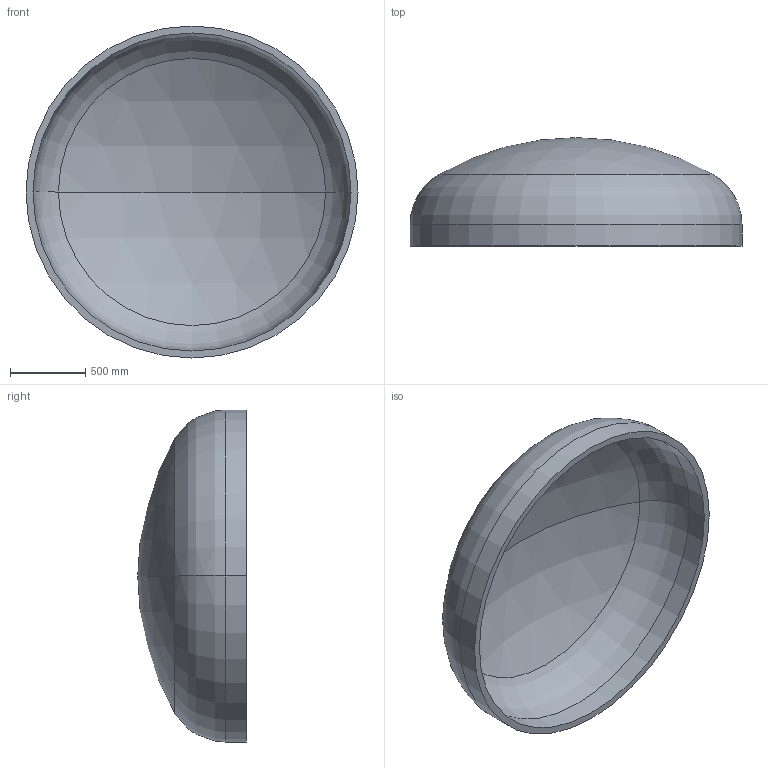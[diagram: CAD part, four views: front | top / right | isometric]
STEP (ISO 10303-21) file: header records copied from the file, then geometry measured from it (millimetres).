
FILE_DESCRIPTION (( 'STEP AP203' ), '1' );
FILE_NAME ('DIN 28013 Korbbogenform_-_Boden DIN 28013 - 2200 x 140 - I - s=46.step', '2016-07-01T14:38:26', ( '' ), ( '' ), 'SwSTEP 2.0', 'SolidWorks 2013', '' );
FILE_SCHEMA (( 'CONFIG_CONTROL_DESIGN' ));
Length unit declared in the file: millimetre
Products named in the file (1): DIN 28013 Korbbogenform_-_Boden DIN 28013 - 2200 x 140 - I - s=46
Bounding box: 2200 x 718.56 x 2200 mm (x, y, z)
Volume: 279353949.9 mm3; surface area: 12461533.4 mm2
Topology: 1 solids, 1 shells, 13 faces, 24 edges, 14 vertices
Faces by surface type: torus 4, cylinder 4, sphere 4, plane 1
Entity records: 407 total; most frequent: DIRECTION 72, CARTESIAN_POINT 52, ORIENTED_EDGE 48, AXIS2_PLACEMENT_3D 34, EDGE_CURVE 24, CIRCLE 20, EDGE_LOOP 14, VERTEX_POINT 14
